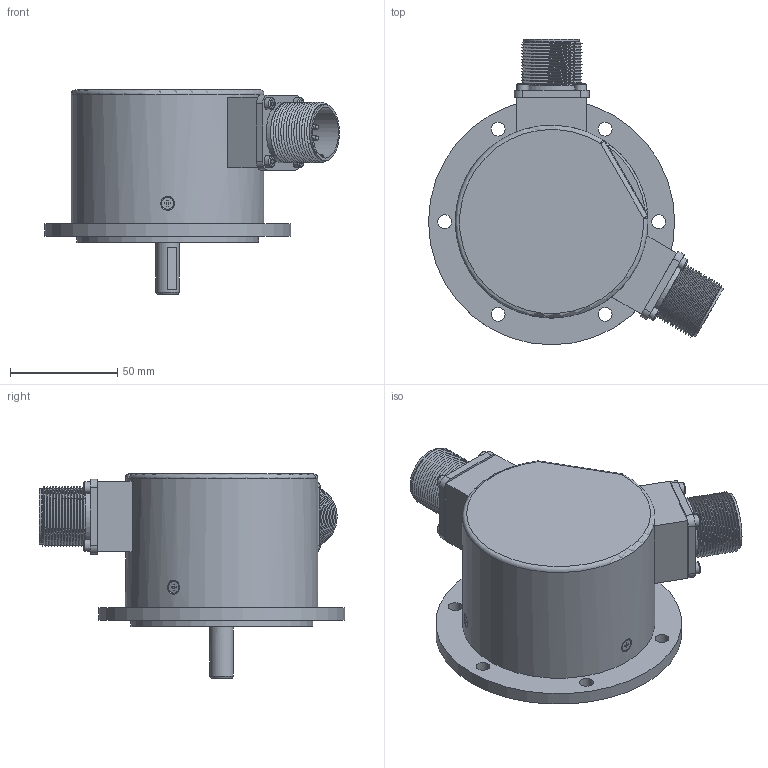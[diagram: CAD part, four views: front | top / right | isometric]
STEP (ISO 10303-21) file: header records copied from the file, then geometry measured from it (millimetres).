
FILE_DESCRIPTION( ( 'Unknown' ), '1' );
FILE_NAME( 'C:/Users/malfermoa/Desktop/step/EH_115A_albero 11_doppia uscita MR.stp', 'Unknown', ( 'Unknown' ), ( 'Unknown' ), 'PSStep 15.0.49', 'Unknown', ' ' );
FILE_SCHEMA( ( 'AUTOMOTIVE_DESIGN { 1 0 10303 214 1 1 1 1 }' ) );
Length unit declared in the file: millimetre
Products named in the file (11): 41890023-oa10
Bounding box: 137.79 x 142.7 x 95.5 mm (x, y, z)
Volume: 257434.7 mm3; surface area: 99391.7 mm2
Topology: 11 solids, 24 shells, 622 faces, 1492 edges, 965 vertices
Faces by surface type: plane 258, cylinder 248, cone 44, sphere 38, torus 20, bspline 14
Full cylindrical faces by diameter (mm): 2 x40, 2.013 x6, 2.459 x8, 2.6 x20, 3.2 x3, 3.5 x16, 4.134 x3, 5.5 x8, 5.6 x3, 6.5 x6, 10 x1, 11 x1, 14.5 x2, 19 x2, 21.2 x2, 21.998 x2, 22 x2, 23.9 x2, 24 x1, 25.2 x2, 26 x37, 26.75 x2, 28.4 x2, 29.5 x2, 31 x1, 82.2 x1, 85 x1, 86 x2, 90 x1, 115 x1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
Entity records: 27264 total; most frequent: CARTESIAN_POINT 10992, DIRECTION 2457, ORIENTED_EDGE 1896, AXIS2_PLACEMENT_3D 1026, EDGE_CURVE 948, EDGE_LOOP 904, VERTEX_POINT 752, FACE_OUTER_BOUND 736
